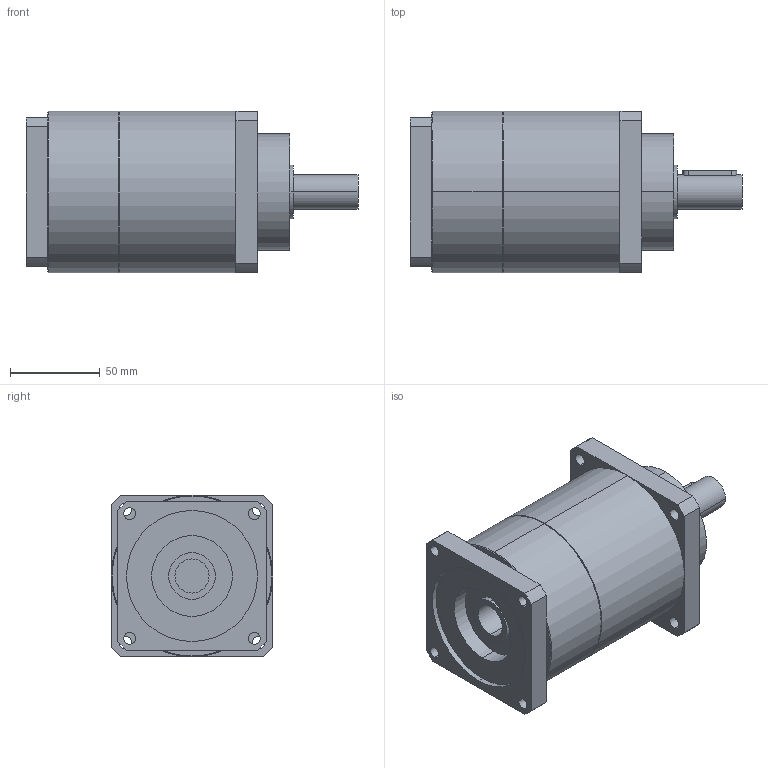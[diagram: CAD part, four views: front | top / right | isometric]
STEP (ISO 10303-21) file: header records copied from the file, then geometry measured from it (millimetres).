
FILE_DESCRIPTION(('CoCreate Modeling STEP Export'),'2;1');
FILE_NAME('GPT90_ig-9-12-16-20-25-28-35-40-50-70-100_19_B5T_19_P05.stp','2015-02-04T11:32:50',(''),(''),'CoCreate Modeling STEP processor for AP214 (Solid Model)','CoCreate Modeling 16.00C 25-Feb-2009 (C) Parametric Technology GmbH','');
FILE_SCHEMA(('AUTOMOTIVE_DESIGN { 1 0 10303 214 1 1 1 1 }'));
Length unit declared in the file: millimetre
Products named in the file (2): GPT90_ig-9-12-16-20-25-28-35-40-50-70-100_19_B5T_19_P05
Assembly tree (1 placements, depth 2):
  GPT90_ig-9-12-16-20-25-28-35-40-50-70-100_19_B5T_19_P05
    GPT90_ig-9-12-16-20-25-28-35-40-50-70-100_19_B5T_19_P05
Bounding box: 185 x 90 x 90 mm (x, y, z)
Volume: 878298.1 mm3; surface area: 67815.1 mm2
Topology: 1 solids, 1 shells, 84 faces, 221 edges, 148 vertices
Faces by surface type: cylinder 46, plane 34, cone 4
Entity records: 2695 total; most frequent: CARTESIAN_POINT 754, ORIENTED_EDGE 442, DIRECTION 330, EDGE_CURVE 221, VERTEX_POINT 148, AXIS2_PLACEMENT_3D 121, EDGE_LOOP 109, VECTOR 88
